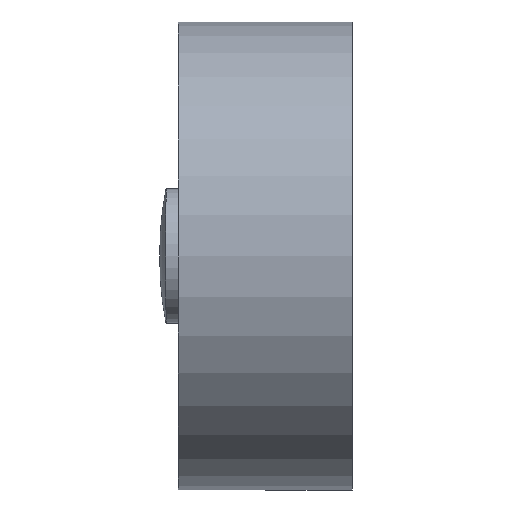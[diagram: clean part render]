
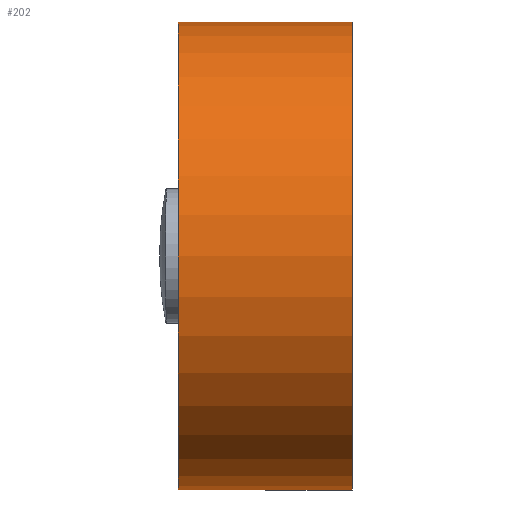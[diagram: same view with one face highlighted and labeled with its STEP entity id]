
A CAD part, left-side view. The second image highlights one B-rep face of the part: STEP entity #202.
In plain terms, the highlighted cylindrical face has radius 18.85 mm (diameter 37.7 mm), a partial arc.
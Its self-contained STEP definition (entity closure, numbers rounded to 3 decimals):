
#1 = DIRECTION ( 'NONE',  ( 0., -1., 0. ) ) ;
#18 = FACE_OUTER_BOUND ( 'NONE', #460, .T. ) ;
#49 = EDGE_CURVE ( 'NONE', #857, #790, #291, .T. ) ;
#66 = CARTESIAN_POINT ( 'NONE',  ( -0.81, 1.5, 18.85 ) ) ;
#91 = EDGE_CURVE ( 'NONE', #790, #639, #868, .T. ) ;
#183 = CARTESIAN_POINT ( 'NONE',  ( -0.81, 0.5, 18.85 ) ) ;
#202 = ADVANCED_FACE ( 'NONE', ( #18 ), #559, .T. ) ;
#276 = EDGE_CURVE ( 'NONE', #857, #948, #692, .T. ) ;
#281 = VECTOR ( 'NONE', #418, 1000. ) ;
#291 = CIRCLE ( 'NONE', #892, 18.85 ) ;
#314 = AXIS2_PLACEMENT_3D ( 'NONE', #323, #629, #710 ) ;
#323 = CARTESIAN_POINT ( 'NONE',  ( -0.81, 1.5, 0. ) ) ;
#418 = DIRECTION ( 'NONE',  ( 0., -1., 0. ) ) ;
#421 = ORIENTED_EDGE ( 'NONE', *, *, #49, .T. ) ;
#426 = CARTESIAN_POINT ( 'NONE',  ( -0.81, 14.5, 0. ) ) ;
#443 = ORIENTED_EDGE ( 'NONE', *, *, #91, .T. ) ;
#460 = EDGE_LOOP ( 'NONE', ( #621, #421, #443, #739 ) ) ;
#463 = EDGE_CURVE ( 'NONE', #948, #639, #687, .T. ) ;
#541 = CARTESIAN_POINT ( 'NONE',  ( -0.81, 1.5, -18.85 ) ) ;
#559 = CYLINDRICAL_SURFACE ( 'NONE', #314, 18.85 ) ;
#584 = DIRECTION ( 'NONE',  ( 0., 0., -1. ) ) ;
#621 = ORIENTED_EDGE ( 'NONE', *, *, #276, .F. ) ;
#629 = DIRECTION ( 'NONE',  ( 0., -1., 0. ) ) ;
#639 = VERTEX_POINT ( 'NONE', #819 ) ;
#682 = CARTESIAN_POINT ( 'NONE',  ( -0.81, 14.5, -18.85 ) ) ;
#687 = CIRCLE ( 'NONE', #801, 18.85 ) ;
#692 = LINE ( 'NONE', #66, #281 ) ;
#710 = DIRECTION ( 'NONE',  ( 0., 0., -1. ) ) ;
#739 = ORIENTED_EDGE ( 'NONE', *, *, #463, .F. ) ;
#790 = VERTEX_POINT ( 'NONE', #682 ) ;
#801 = AXIS2_PLACEMENT_3D ( 'NONE', #962, #809, #812 ) ;
#809 = DIRECTION ( 'NONE',  ( 0., -1., 0. ) ) ;
#812 = DIRECTION ( 'NONE',  ( 0., 0., -1. ) ) ;
#819 = CARTESIAN_POINT ( 'NONE',  ( -0.81, 0.5, -18.85 ) ) ;
#855 = DIRECTION ( 'NONE',  ( 0., -1., 0. ) ) ;
#857 = VERTEX_POINT ( 'NONE', #865 ) ;
#865 = CARTESIAN_POINT ( 'NONE',  ( -0.81, 14.5, 18.85 ) ) ;
#868 = LINE ( 'NONE', #541, #932 ) ;
#892 = AXIS2_PLACEMENT_3D ( 'NONE', #426, #1, #584 ) ;
#932 = VECTOR ( 'NONE', #855, 1000. ) ;
#948 = VERTEX_POINT ( 'NONE', #183 ) ;
#962 = CARTESIAN_POINT ( 'NONE',  ( -0.81, 0.5, 0. ) ) ;
